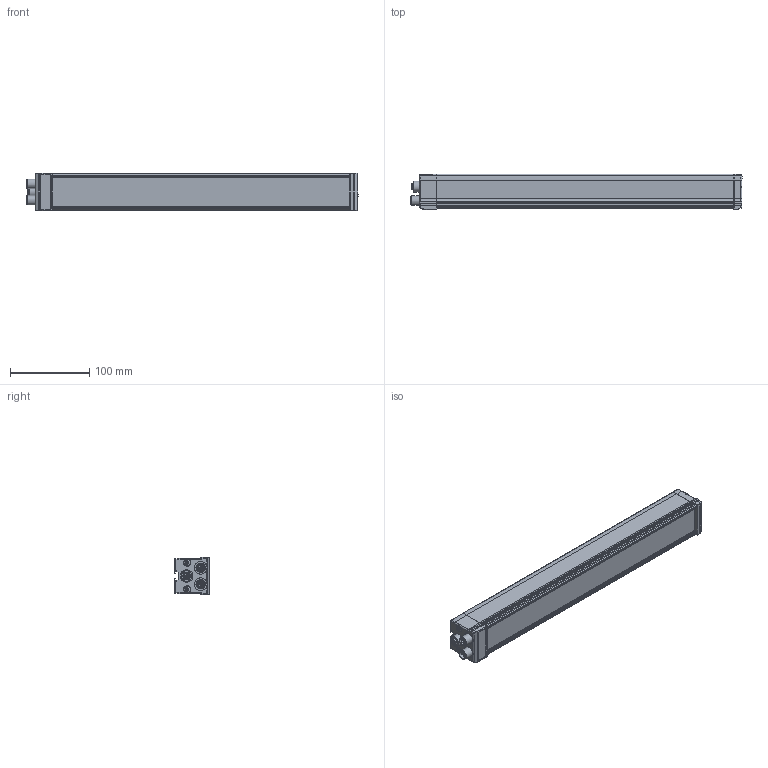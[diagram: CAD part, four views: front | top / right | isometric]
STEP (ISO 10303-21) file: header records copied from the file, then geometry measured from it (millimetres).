
FILE_DESCRIPTION(/* description */ (''),/* implementation_level */ '2;1');
FILE_NAME(/* name */ 'C:\#Vault-WorkDir\Konstruktions-Dokumente\Projekte\VISOR\Zubehör\153-01220_LB 375 xK-24--Axx-2L5.stp',/* time_stamp */ '2016-04-29T09:36:41+02:00',/* author */ ('Sandra.Stahl'),/* organization */ (''),/* preprocessor_version */ 'ST-DEVELOPER v16.1',/* originating_system */ 'Autodesk Inventor 2016',/* authorisation */ '');
FILE_SCHEMA (('AUTOMOTIVE_DESIGN { 1 0 10303 214 3 1 1 }'));
Length unit declared in the file: millimetre
Products named in the file (1): GH-ENG-0015490
Bounding box: 420.05 x 45 x 47.63 mm (x, y, z)
Volume: 615550.1 mm3; surface area: 167298.4 mm2
Topology: 1 solids, 2 shells, 1031 faces, 2620 edges, 1650 vertices
Faces by surface type: plane 464, cylinder 283, bspline 154, cone 63, torus 53, sphere 14
Full cylindrical faces by diameter (mm): 1 x10, 8 x4, 8.25 x1, 8.3 x2, 8.8 x1, 8.9 x1, 9.5 x1, 10.75 x2, 12 x2, 14 x1, 16 x3
Entity records: 41166 total; most frequent: CARTESIAN_POINT 16151, ORIENTED_EDGE 5032, DIRECTION 4862, EDGE_CURVE 2516, AXIS2_PLACEMENT_3D 1732, VERTEX_POINT 1637, LINE 1398, VECTOR 1398
